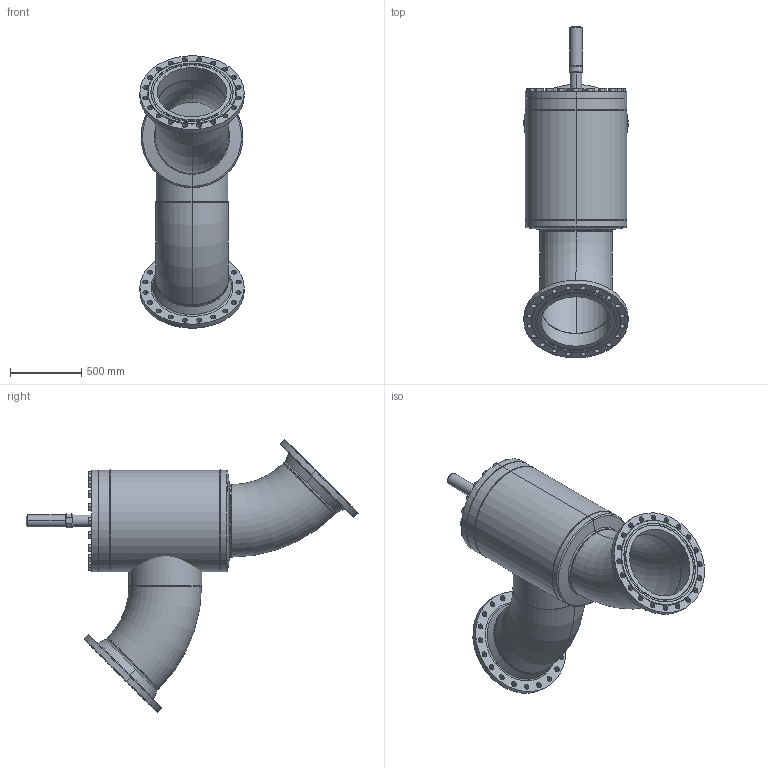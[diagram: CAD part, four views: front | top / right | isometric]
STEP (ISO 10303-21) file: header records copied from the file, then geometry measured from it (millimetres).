
FILE_DESCRIPTION (( 'STEP AP214' ), '1' );
FILE_NAME ('AVR26320C28-DN500_DIN-FL-N_PS25.STEP', '2006-04-28T08:33:33', ( 'Herr Grams' ), ( 'AWP GmbH' ), 'SwSTEP 2.0', 'SolidWorks 2002296', '' );
FILE_SCHEMA (( 'AUTOMOTIVE_DESIGN' ));
Length unit declared in the file: millimetre
Products named in the file (22): AVR26320C28-DN500_DIN-FL-N_PS25; AVR26300B28_Deck+Schr-DN500_Standard; Deckel-kpl26300-DN500_Standard; Buchse1 f Deckel26300-DN500_Standard; Scheibe f Deckel26300-DN500_Standard; bead-deck263-500_Standard; Sechskantschraube-DIN933_M33x 80; Gehäuse-kpl26320-DN500_DIN_PS25_Standard; bead-DN500-7_Standard; Gehäuse-kpl26300-DN500_R1_Standard; Gehäuse26300-DN500_Standard; Kopfstück26300-DN500_Standard; Boden26300-DN500_Standard; Rohrstutzen-A26300-DN500_R1_Standard; Rohrbogen 45°_Rohrbogen-DN500-45°; bead-DN500-1_Standard; bead-DN500-2_Standard; bead-DN500-3_Standard; bead-DN500-4_Standard; Flansch-DIN2634-Nut_PS25_DIN-Flansch-DN500_PS25-Nut; bead-DN500-6_Standard; Kappe26300_DN500geschw_Standard
Assembly tree (42 placements, depth 4):
  AVR26320C28-DN500_DIN-FL-N_PS25
    AVR26300B28_Deck+Schr-DN500_Standard
      Sechskantschraube-DIN933_M33x 80  x20
      Deckel-kpl26300-DN500_Standard
        bead-deck263-500_Standard
        Buchse1 f Deckel26300-DN500_Standard
        Scheibe f Deckel26300-DN500_Standard
    Gehäuse-kpl26320-DN500_DIN_PS25_Standard
      bead-DN500-7_Standard
      Flansch-DIN2634-Nut_PS25_DIN-Flansch-DN500_PS25-Nut  x2
      Gehäuse-kpl26300-DN500_R1_Standard
        Rohrbogen 45°_Rohrbogen-DN500-45°  x2
        Kopfstück26300-DN500_Standard
        Boden26300-DN500_Standard
        bead-DN500-1_Standard
        Rohrstutzen-A26300-DN500_R1_Standard
        bead-DN500-3_Standard
        bead-DN500-2_Standard
        Gehäuse26300-DN500_Standard
        bead-DN500-4_Standard
      bead-DN500-6_Standard
    Kappe26300_DN500geschw_Standard
Bounding box: 729.89 x 2324.14 x 1907.64 mm (x, y, z)
Volume: 142090420.9 mm3; surface area: 13219885 mm2
Topology: 38 solids, 38 shells, 833 faces, 1844 edges, 1124 vertices
Faces by surface type: cone 314, cylinder 241, plane 238, bspline 24, torus 16
Entity records: 14453 total; most frequent: CARTESIAN_POINT 6520, DIRECTION 1540, ORIENTED_EDGE 1352, EDGE_CURVE 676, AXIS2_PLACEMENT_3D 673, VERTEX_POINT 436, EDGE_LOOP 414, CIRCLE 360
